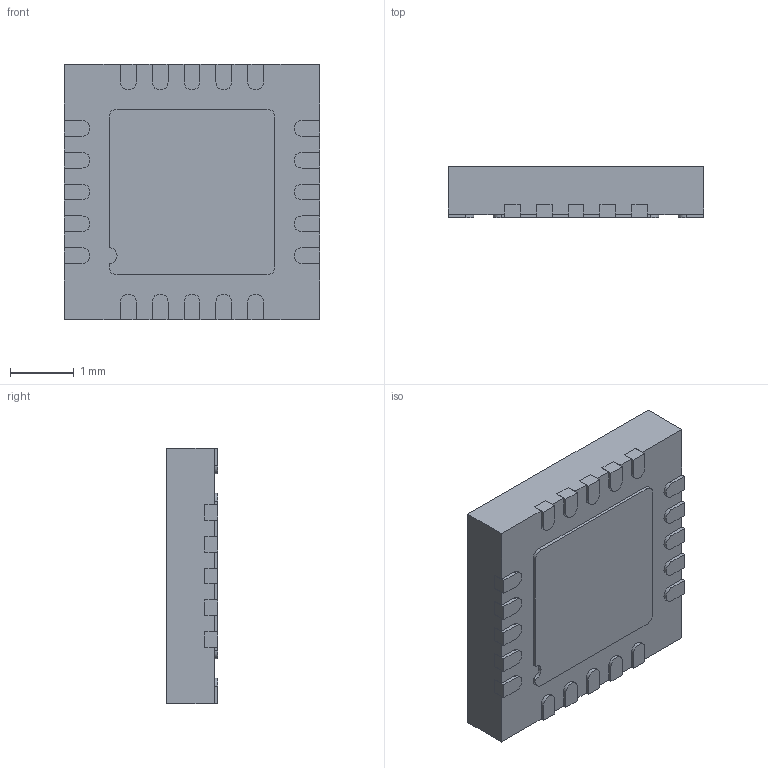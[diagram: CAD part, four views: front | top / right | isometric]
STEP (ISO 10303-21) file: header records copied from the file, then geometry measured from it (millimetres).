
FILE_DESCRIPTION (( 'STEP AP214' ), '1' );
FILE_NAME ('AD8232.STEP', '2023-01-18T08:44:09', ( '' ), ( '' ), 'SwSTEP 2.0', 'SolidWorks 2017', '' );
FILE_SCHEMA (( 'AUTOMOTIVE_DESIGN' ));
Length unit declared in the file: millimetre
Products named in the file (1): AD8232
Bounding box: 4 x 0.8 x 4 mm (x, y, z)
Volume: 12.4 mm3; surface area: 72 mm2
Topology: 23 solids, 23 shells, 246 faces, 594 edges, 396 vertices
Faces by surface type: plane 182, cylinder 64
Entity records: 7378 total; most frequent: CARTESIAN_POINT 1237, DIRECTION 1216, ORIENTED_EDGE 1188, EDGE_CURVE 594, LINE 466, VECTOR 466, VERTEX_POINT 396, AXIS2_PLACEMENT_3D 375
